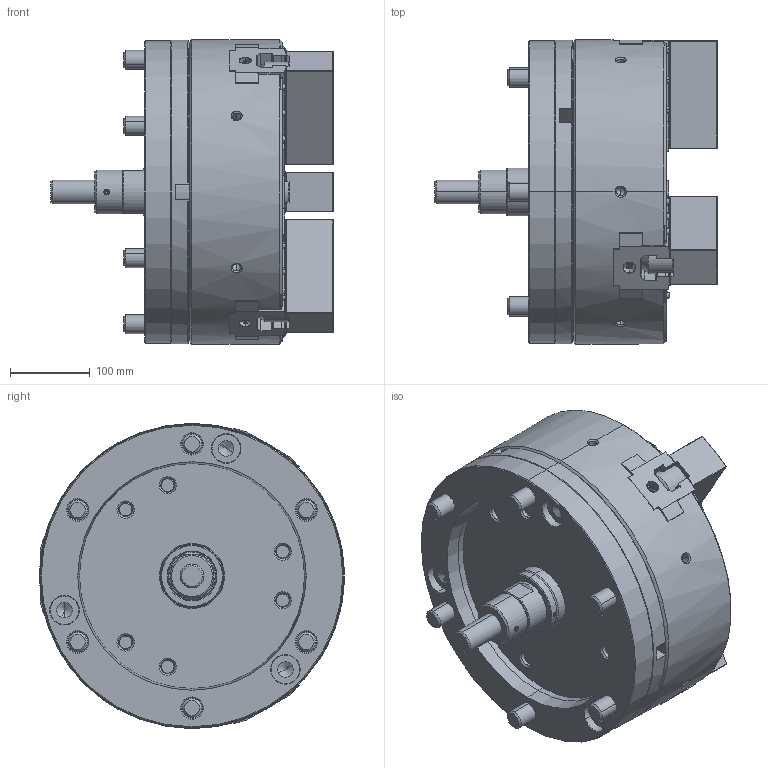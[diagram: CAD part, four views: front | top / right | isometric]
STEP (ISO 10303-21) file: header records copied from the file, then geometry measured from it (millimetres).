
FILE_DESCRIPTION (( 'STEP AP214' ), '1' );
FILE_NAME ('DT1_NV15C15_OUTSIDE_VIEW_HUL.STEP', '2026-03-24T01:47:58', ( '' ), ( '' ), 'SwSTEP 2.0', 'SolidWorks 2022', '' );
FILE_SCHEMA (( 'AUTOMOTIVE_DESIGN' ));
Length unit declared in the file: millimetre
Products named in the file (18): DT1_NV15C15_COVER^DT1_NV15C1500; DT1_NV15C15_BASE^DT1_NV15C1500; DT1_NV15C15_P80^DT1_NV15C1500_円筒用; DT1_NV15C15_M20x110^DT1_NV15C1500; DT1_NV15C15_DRAWSCREW^DT1_NV15C1500; DT1_NV15C15_M20x55^DT1_NV15C1500; DT1_NV15C15_OUTSIDE_VIEW_HUL; DT1_NV15C15_COVERFOOTER^DT1_NV15C1500; DT1_NV15C15_CAP^DT1_NV15C1500; DT1_NV15C15_DN^DT1_NV15C1500; DT1_NV15C15_S38^DT1_NV15C1500_円筒用; DT1_NV15C15_BP^DT1_NV15C1500; DT1_NV15C15_M6x12^DT1_NV15C1500; Copy of 61P321208^DT1_NV15C1500; DT1_NV15C15_ORING^DT1_NV15C1500; DT1_NV15C15_TNUT^DT1_NV15C1500; DT1_NV15C15_S24^DT1_NV15C1500_円筒用; DT1_NV15C15_SOFTJAW^DT1_NV15C1500
Assembly tree (46 placements, depth 2):
  DT1_NV15C15_OUTSIDE_VIEW_HUL
    DT1_NV15C15_SOFTJAW^DT1_NV15C1500  x3
    DT1_NV15C15_TNUT^DT1_NV15C1500  x6
    DT1_NV15C15_COVER^DT1_NV15C1500
    DT1_NV15C15_DRAWSCREW^DT1_NV15C1500
    Copy of 61P321208^DT1_NV15C1500
    DT1_NV15C15_COVERFOOTER^DT1_NV15C1500
    DT1_NV15C15_DN^DT1_NV15C1500
    DT1_NV15C15_BP^DT1_NV15C1500
    DT1_NV15C15_BASE^DT1_NV15C1500
    DT1_NV15C15_M6x12^DT1_NV15C1500  x6
    DT1_NV15C15_M20x55^DT1_NV15C1500  x6
    DT1_NV15C15_M20x110^DT1_NV15C1500  x6
    DT1_NV15C15_S24^DT1_NV15C1500_円筒用
    DT1_NV15C15_S38^DT1_NV15C1500_円筒用
    DT1_NV15C15_P80^DT1_NV15C1500_円筒用
    DT1_NV15C15_CAP^DT1_NV15C1500  x6
    DT1_NV15C15_ORING^DT1_NV15C1500  x3
Bounding box: 353.56 x 381 x 381 mm (x, y, z)
Volume: 18608220.5 mm3; surface area: 1489410.9 mm2
Topology: 46 solids, 76 shells, 6720 faces, 18516 edges, 11934 vertices
Faces by surface type: plane 4381, cylinder 1173, cone 870, torus 158, bspline 132, sphere 6
Entity records: 170460 total; most frequent: CARTESIAN_POINT 43905, ORIENTED_EDGE 27504, DIRECTION 23594, EDGE_CURVE 13752, VECTOR 9468, LINE 9468, VERTEX_POINT 8930, AXIS2_PLACEMENT_3D 7063
